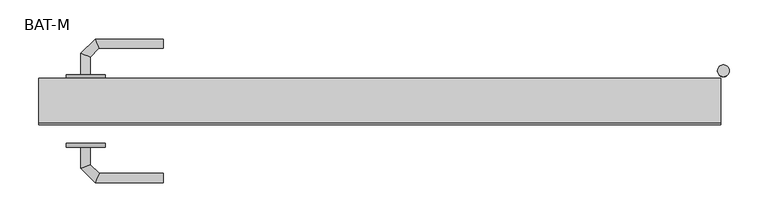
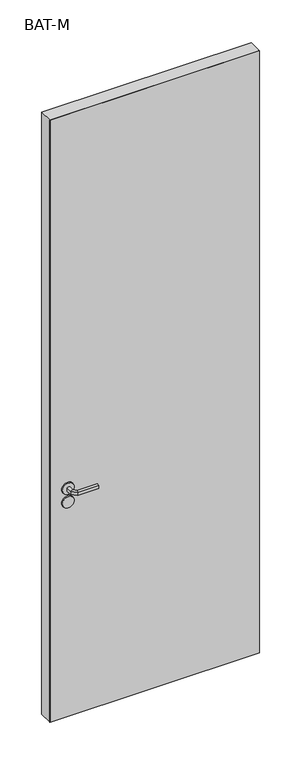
"""IFC4 building model written with IfcOpenShell, lengths in millimetres: proxy geometry, BAT-M : 85-GOALFVITRE."""

from ifc_helpers import new_model, si_unit, point, frame, frame_2d, origin, place, context, project, spatial, polyline, circle_curve, ellipse_curve, trimmed, segment, composite_curve, outline, extrude, source, transform, mapped, element, save
from ifc_brep_helpers import plane_surface, cylinder_surface, advanced_brep


def bat_m_cff2483f(model_context):
    return source(origin(), model_context, "Body", "SolidModel", [
        extrude(outline(composite_curve([segment(trimmed(circle_curve(frame_2d((1051.0, -820.7739009)), 25.0), [point((1051.0, -845.7739009))], [point((1051.0, -795.7739009))], False, "CARTESIAN"), True, "CONTINUOUS"), segment(trimmed(circle_curve(frame_2d((1051.0, -820.7739009)), 25.0), [point((1051.0, -795.7739009))], [point((1051.0, -845.7739009))], False, "CARTESIAN"), True, "CONTINUOUS")], self_intersect=False)), frame((0.0, -88.0, 0.0), z_axis=(0.0, 1.0, 0.0), x_axis=(0.0, 0.0, 1.0)), (0.0, 0.0, 1.0), 5.0),
        extrude(outline(composite_curve([segment(trimmed(circle_curve(frame_2d((991.25, -820.9257392)), 25.0), [point((991.25, -845.9257392))], [point((991.25, -795.9257392))], False, "CARTESIAN"), True, "CONTINUOUS"), segment(trimmed(circle_curve(frame_2d((991.25, -820.9257392)), 25.0), [point((991.25, -795.9257392))], [point((991.25, -845.9257392))], False, "CARTESIAN"), True, "CONTINUOUS")], self_intersect=False)), frame((0.0, -88.0, 0.0), z_axis=(0.0, 1.0, 0.0), x_axis=(0.0, 0.0, 1.0)), (0.0, 0.0, 1.0), 5.0),
        advanced_brep(
        [(-815.0, -88.0, 1044.0), (-827.0, -88.0, 1044.0), (-827.0, -88.0, 1058.0), (-815.0, -88.0, 1058.0), (-815.0, -110.4852045, 1058.0), (-815.0, -110.4852045, 1044.0), (-827.0, -115.4557673, 1058.0), (-827.0, -115.4557673, 1044.0), (-803.5147186, -121.9704859, 1058.0), (-803.5147186, -121.9704859, 1044.0), (-808.4852814, -133.9704859, 1058.0), (-808.4852814, -133.9704859, 1044.0), (-720.9542163, -121.9704859, 1044.0), (-720.9542163, -121.9704859, 1058.0), (-720.9542163, -133.9704859, 1058.0), (-720.9542163, -133.9704859, 1044.0)],
        [
            (0, 1, circle_curve(frame((-821.0, -88.0, 1064.0457722), z_axis=(0.0, 1.0, 0.0), x_axis=(-1.0, 0.0, 0.0)), 20.9244589)),
            (1, 2),
            (2, 3, circle_curve(frame((-821.0, -88.0, 1037.9542278), z_axis=(0.0, 1.0, 0.0), x_axis=(-1.0, 0.0, 0.0)), 20.9244589)),
            (3, 0),
            (3, 4),
            (4, 5),
            (5, 0),
            (2, 6),
            (6, 4, ellipse_curve(frame((-821.0, -112.9704859, 1037.9542278), z_axis=(-0.3826834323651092, 0.9238795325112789, 0.0), x_axis=(0.9238795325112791, 0.3826834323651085, 0.0)), 22.6484711, 20.9244589)),
            (1, 7),
            (7, 6),
            (5, 7, ellipse_curve(frame((-821.0, -112.9704859, 1064.0457722), z_axis=(-0.3826834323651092, 0.9238795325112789, 0.0), x_axis=(0.9238795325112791, 0.3826834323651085, 0.0)), 22.6484711, 20.9244589)),
            (4, 8),
            (8, 9),
            (9, 5),
            (6, 10),
            (10, 8, ellipse_curve(frame((-806.0, -127.9704859, 1037.9542278), z_axis=(-0.923879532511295, 0.38268343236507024, 0.0), x_axis=(0.3826834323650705, 0.9238795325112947, 0.0)), 22.6484711, 20.9244589)),
            (7, 11),
            (11, 10),
            (9, 11, ellipse_curve(frame((-806.0, -127.9704859, 1064.0457722), z_axis=(-0.923879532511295, 0.38268343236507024, 0.0), x_axis=(0.3826834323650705, 0.9238795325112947, 0.0)), 22.6484711, 20.9244589)),
            (12, 13),
            (13, 14, circle_curve(frame((-720.9542163, -127.9704859, 1037.9542278), z_axis=(1.0, 0.0, 0.0), x_axis=(0.0, -1.0, 0.0)), 20.9244589)),
            (14, 15),
            (15, 12, circle_curve(frame((-720.9542163, -127.9704859, 1064.0457722), z_axis=(1.0, 0.0, 0.0), x_axis=(0.0, -1.0, 0.0)), 20.9244589)),
            (8, 13),
            (12, 9),
            (10, 14),
            (11, 15),
        ],
        [
            plane_surface(frame((-830.2195445, -88.0, 1051.0), z_axis=(0.0, 1.0, 0.0), x_axis=(0.0, 0.0, 1.0))),
            plane_surface(frame((-815.0, -88.0, 1044.0), z_axis=(1.0, 0.0, 0.0), x_axis=(0.0, -1.0, 0.0))),
            cylinder_surface(frame((-821.0, -88.0, 1037.9542278), z_axis=(0.0, 1.0, 0.0), x_axis=(-1.0, 0.0, 0.0)), 20.9244589),
            plane_surface(frame((-827.0, -88.0, 1058.0), z_axis=(-1.0, 0.0, 0.0), x_axis=(0.0, -1.0, 0.0))),
            cylinder_surface(frame((-821.0, -88.0, 1064.0457722), z_axis=(0.0, 1.0, 0.0), x_axis=(-1.0, 0.0, 0.0)), 20.9244589),
            plane_surface(frame((-815.0, -110.4852045, 1044.0), z_axis=(0.7071067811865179, 0.7071067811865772, 0.0), x_axis=(0.7071067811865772, -0.7071067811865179, 0.0))),
            cylinder_surface(frame((-821.0, -112.9704859, 1037.9542278), z_axis=(-0.7071067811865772, 0.7071067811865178, 0.0), x_axis=(-0.7071067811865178, -0.7071067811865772, 0.0)), 20.9244589),
            plane_surface(frame((-827.0, -115.4557673, 1058.0), z_axis=(-0.7071067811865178, -0.7071067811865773, 0.0), x_axis=(0.7071067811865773, -0.7071067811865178, 0.0))),
            cylinder_surface(frame((-821.0, -112.9704859, 1064.0457722), z_axis=(-0.7071067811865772, 0.7071067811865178, 0.0), x_axis=(-0.7071067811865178, -0.7071067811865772, 0.0)), 20.9244589),
            plane_surface(frame((-720.9542163, -127.9704859, 1041.7804555), z_axis=(1.0, 0.0, 0.0), x_axis=(0.0, -1.0, 0.0))),
            plane_surface(frame((-803.5147186, -121.9704859, 1044.0), z_axis=(0.0, 1.0, 0.0), x_axis=(1.0, 0.0, 0.0))),
            cylinder_surface(frame((-806.0, -127.9704859, 1037.9542278), z_axis=(-1.0, 0.0, 0.0), x_axis=(0.0, -1.0, 0.0)), 20.9244589),
            plane_surface(frame((-808.4852814, -133.9704859, 1058.0), z_axis=(0.0, -1.0, 0.0), x_axis=(1.0, 0.0, 0.0))),
            cylinder_surface(frame((-806.0, -127.9704859, 1064.0457722), z_axis=(-1.0, 0.0, 0.0), x_axis=(0.0, -1.0, 0.0)), 20.9244589),
        ],
        [
            (0, [[1, 2, 3, 4]]),
            (1, [[5, 6, 7, -4]]),
            (2, [[8, 9, -5, -3]]),
            (3, [[10, 11, -8, -2]]),
            (4, [[-7, 12, -10, -1]]),
            (5, [[13, 14, 15, -6]]),
            (6, [[16, 17, -13, -9]]),
            (7, [[18, 19, -16, -11]]),
            (8, [[-15, 20, -18, -12]]),
            (9, [[21, 22, 23, 24]]),
            (10, [[25, -21, 26, -14]]),
            (11, [[27, -22, -25, -17]]),
            (12, [[28, -23, -27, -19]]),
            (13, [[-26, -24, -28, -20]]),
        ],
    ),
        advanced_brep(
        [(-827.0, 5.0, 1058.0), (-827.0, 5.0, 1044.0), (-815.0, 5.0, 1044.0), (-815.0, 5.0, 1058.0), (-815.0, 27.680388, 1058.0), (-827.0, 32.6509507, 1058.0), (-815.0, 27.680388, 1044.0), (-827.0, 32.6509507, 1044.0), (-803.6522273, 39.0281607, 1058.0), (-808.62279, 51.0281607, 1058.0), (-803.6522273, 39.0281607, 1044.0), (-808.62279, 51.0281607, 1044.0), (-720.9813594, 51.0281607, 1058.0), (-720.9813594, 39.0281607, 1058.0), (-720.9813594, 39.0281607, 1044.0), (-720.9813594, 51.0281607, 1044.0)],
        [
            (0, 1),
            (1, 2, circle_curve(frame((-821.0, 5.0, 1064.0457722), z_axis=(0.0, -1.0, 0.0), x_axis=(1.0, 0.0, 0.0)), 20.9244589)),
            (2, 3),
            (3, 0, circle_curve(frame((-821.0, 5.0, 1037.9542278), z_axis=(0.0, -1.0, 0.0), x_axis=(1.0, 0.0, 0.0)), 20.9244589)),
            (3, 4),
            (4, 5, ellipse_curve(frame((-821.0, 30.1656693, 1037.9542278), z_axis=(-0.38268343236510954, -0.9238795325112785, 0.0), x_axis=(0.9238795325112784, -0.38268343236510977, 0.0)), 22.6484711, 20.9244589)),
            (5, 0),
            (2, 6),
            (6, 4),
            (1, 7),
            (7, 6, ellipse_curve(frame((-821.0, 30.1656693, 1064.0457722), z_axis=(-0.38268343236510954, -0.9238795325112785, 0.0), x_axis=(0.9238795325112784, -0.38268343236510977, 0.0)), 22.6484711, 20.9244589)),
            (5, 7),
            (4, 8),
            (8, 9, ellipse_curve(frame((-806.1375086, 45.0281607, 1037.9542278), z_axis=(-0.9238795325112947, -0.38268343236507, 0.0), x_axis=(0.38268343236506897, -0.9238795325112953, 0.0)), 22.6484711, 20.9244589)),
            (9, 5),
            (6, 10),
            (10, 8),
            (7, 11),
            (11, 10, ellipse_curve(frame((-806.1375086, 45.0281607, 1064.0457722), z_axis=(-0.9238795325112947, -0.38268343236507, 0.0), x_axis=(0.38268343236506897, -0.9238795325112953, 0.0)), 22.6484711, 20.9244589)),
            (9, 11),
            (12, 13, circle_curve(frame((-720.9813594, 45.0281607, 1037.9542278), z_axis=(1.0, 0.0, 0.0), x_axis=(0.0, -1.0, 0.0)), 20.9244589)),
            (13, 14),
            (14, 15, circle_curve(frame((-720.9813594, 45.0281607, 1064.0457722), z_axis=(1.0, 0.0, 0.0), x_axis=(0.0, -1.0, 0.0)), 20.9244589)),
            (15, 12),
            (8, 13),
            (12, 9),
            (10, 14),
            (11, 15),
        ],
        [
            plane_surface(frame((-830.2195445, 5.0, 1051.0), z_axis=(0.0, -1.0, 0.0), x_axis=(0.0, 0.0, -1.0))),
            cylinder_surface(frame((-821.0, 5.0, 1037.9542278), z_axis=(0.0, -1.0, 0.0), x_axis=(1.0, 0.0, 0.0)), 20.9244589),
            plane_surface(frame((-815.0, 5.0, 1058.0), z_axis=(1.0, 0.0, 0.0), x_axis=(0.0, 1.0, 0.0))),
            cylinder_surface(frame((-821.0, 5.0, 1064.0457722), z_axis=(0.0, -1.0, 0.0), x_axis=(1.0, 0.0, 0.0)), 20.9244589),
            plane_surface(frame((-827.0, 5.0, 1044.0), z_axis=(-1.0, 0.0, 0.0), x_axis=(0.0, 1.0, 0.0))),
            cylinder_surface(frame((-821.0, 30.1656693, 1037.9542278), z_axis=(-0.7071067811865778, -0.7071067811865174, 0.0), x_axis=(0.7071067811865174, -0.7071067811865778, 0.0)), 20.9244589),
            plane_surface(frame((-815.0, 27.680388, 1058.0), z_axis=(0.7071067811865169, -0.7071067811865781, 0.0), x_axis=(0.7071067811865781, 0.7071067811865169, 0.0))),
            cylinder_surface(frame((-821.0, 30.1656693, 1064.0457722), z_axis=(-0.7071067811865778, -0.7071067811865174, 0.0), x_axis=(0.7071067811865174, -0.7071067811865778, 0.0)), 20.9244589),
            plane_surface(frame((-827.0, 32.6509507, 1044.0), z_axis=(-0.707106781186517, 0.707106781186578, 0.0), x_axis=(0.707106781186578, 0.707106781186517, 0.0))),
            plane_surface(frame((-720.9813594, 45.0281607, 1041.7804555), z_axis=(1.0, 0.0, 0.0), x_axis=(0.0, -1.0, 0.0))),
            cylinder_surface(frame((-806.1375086, 45.0281607, 1037.9542278), z_axis=(-1.0, 0.0, 0.0), x_axis=(0.0, -1.0, 0.0)), 20.9244589),
            plane_surface(frame((-803.6522273, 39.0281607, 1058.0), z_axis=(0.0, -1.0, 0.0), x_axis=(1.0, 0.0, 0.0))),
            cylinder_surface(frame((-806.1375086, 45.0281607, 1064.0457722), z_axis=(-1.0, 0.0, 0.0), x_axis=(0.0, -1.0, 0.0)), 20.9244589),
            plane_surface(frame((-808.62279, 51.0281607, 1044.0), z_axis=(0.0, 1.0, 0.0), x_axis=(1.0, 0.0, 0.0))),
        ],
        [
            (0, [[1, 2, 3, 4]]),
            (1, [[5, 6, 7, -4]]),
            (2, [[8, 9, -5, -3]]),
            (3, [[10, 11, -8, -2]]),
            (4, [[-7, 12, -10, -1]]),
            (5, [[13, 14, 15, -6]]),
            (6, [[16, 17, -13, -9]]),
            (7, [[18, 19, -16, -11]]),
            (8, [[-15, 20, -18, -12]]),
            (9, [[21, 22, 23, 24]]),
            (10, [[25, -21, 26, -14]]),
            (11, [[27, -22, -25, -17]]),
            (12, [[28, -23, -27, -19]]),
            (13, [[-26, -24, -28, -20]]),
        ],
    ),
        extrude(outline(composite_curve([segment(trimmed(circle_curve(frame_2d((1051.0, -820.7739009)), 25.0), [point((1051.0, -845.7739009))], [point((1051.0, -795.7739009))], False, "CARTESIAN"), True, "CONTINUOUS"), segment(trimmed(circle_curve(frame_2d((1051.0, -820.7739009)), 25.0), [point((1051.0, -795.7739009))], [point((1051.0, -845.7739009))], False, "CARTESIAN"), True, "CONTINUOUS")], self_intersect=False)), frame((0.0, 0.0, 0.0), z_axis=(0.0, 1.0, 0.0), x_axis=(0.0, 0.0, 1.0)), (0.0, 0.0, 1.0), 5.0),
        extrude(outline(composite_curve([segment(trimmed(circle_curve(frame_2d((991.0, -820.9257392)), 25.0), [point((991.0, -845.9257392))], [point((991.0, -795.9257392))], False, "CARTESIAN"), True, "CONTINUOUS"), segment(trimmed(circle_curve(frame_2d((991.0, -820.9257392)), 25.0), [point((991.0, -795.9257392))], [point((991.0, -845.9257392))], False, "CARTESIAN"), True, "CONTINUOUS")], self_intersect=False)), frame((0.0, 0.0, 0.0), z_axis=(0.0, 1.0, 0.0), x_axis=(0.0, 0.0, 1.0)), (0.0, 0.0, 1.0), 5.0),
        extrude(outline(polyline([(-3.0, -57.5), (-3.0, -59.5), (-881.0, -59.5), (-881.0, -57.5), (-3.0, -57.5)])), frame((0.0, 0.0, 19.0), z_axis=(0.0, 0.0, 1.0), x_axis=(1.0, 0.0, 0.0)), (0.0, 0.0, 1.0), 2668.0),
        extrude(outline(polyline([(-881.0, -57.5), (-3.0, -57.5), (-3.0, -59.5), (-881.0, -59.5), (-881.0, -57.5)])), frame((0.0, 0.0, 19.0), z_axis=(0.0, 0.0, 1.0), x_axis=(1.0, 0.0, 0.0)), (0.0, 0.0, 1.0), 2668.0),
        extrude(outline(polyline([(-881.0, -59.5), (-881.0, 0.0), (-3.0, 0.0), (-3.0, -59.5), (-881.0, -59.5)])), frame((0.0, 0.0, 19.0), z_axis=(0.0, 0.0, 1.0), x_axis=(1.0, 0.0, 0.0)), (0.0, 0.0, 1.0), 2668.0),
        extrude(outline(composite_curve([segment(trimmed(circle_curve(frame_2d((0.0, 10.0)), 7.5), [point((7.5, 10.0))], [point((-7.5, 10.0))], False, "CARTESIAN"), True, "CONTINUOUS"), segment(trimmed(circle_curve(frame_2d((0.0, 10.0)), 7.5), [point((-7.5, 10.0))], [point((7.5, 10.0))], False, "CARTESIAN"), True, "CONTINUOUS")], self_intersect=False)), frame((0.0, 0.0, 2364.5), z_axis=(0.0, 0.0, 1.0), x_axis=(1.0, 0.0, 0.0)), (0.0, 0.0, 1.0), 115.0),
        extrude(outline(composite_curve([segment(trimmed(circle_curve(frame_2d((0.0, 10.0)), 7.5), [point((7.5, 10.0))], [point((-7.5, 10.0))], False, "CARTESIAN"), True, "CONTINUOUS"), segment(trimmed(circle_curve(frame_2d((0.0, 10.0)), 7.5), [point((-7.5, 10.0))], [point((7.5, 10.0))], False, "CARTESIAN"), True, "CONTINUOUS")], self_intersect=False)), frame((0.0, 0.0, 1811.5), z_axis=(0.0, 0.0, 1.0), x_axis=(1.0, 0.0, 0.0)), (0.0, 0.0, 1.0), 115.0),
        extrude(outline(composite_curve([segment(trimmed(circle_curve(frame_2d((0.0, 10.0)), 7.5), [point((7.5, 10.0))], [point((-7.5, 10.0))], False, "CARTESIAN"), True, "CONTINUOUS"), segment(trimmed(circle_curve(frame_2d((0.0, 10.0)), 7.5), [point((-7.5, 10.0))], [point((7.5, 10.0))], False, "CARTESIAN"), True, "CONTINUOUS")], self_intersect=False)), frame((0.0, 0.0, 226.5), z_axis=(0.0, 0.0, 1.0), x_axis=(1.0, 0.0, 0.0)), (0.0, 0.0, 1.0), 115.0),
    ])


if __name__ == "__main__":
    model = new_model("IFC4")
    model_context = context("Model", 3, world=origin())
    ifc_project = project(units=[si_unit("LENGTHUNIT", "METRE", prefix="MILLI")], contexts=[model_context])
    site = spatial("IfcSite", under=ifc_project)
    building = spatial("IfcBuilding", under=site)
    placement = place(None, origin())
    bat_m_shape = bat_m_cff2483f(model_context)
    element("IfcBuildingElementProxy", 1, Name="BAT-M : 85-GOALFVITRE", ObjectType="BAT-M : 85-GOALFVITRE", at=placement, inside=building, context=model_context, shape_type="MappedRepresentation", body=[
        mapped(bat_m_shape, transform((0.0, 0.0, 0.0), x_axis=(1.0, 0.0, 0.0), y_axis=(0.0, 1.0, 0.0), z_axis=(0.0, 0.0, 1.0))),
    ])
    save(model, "model.ifc")
